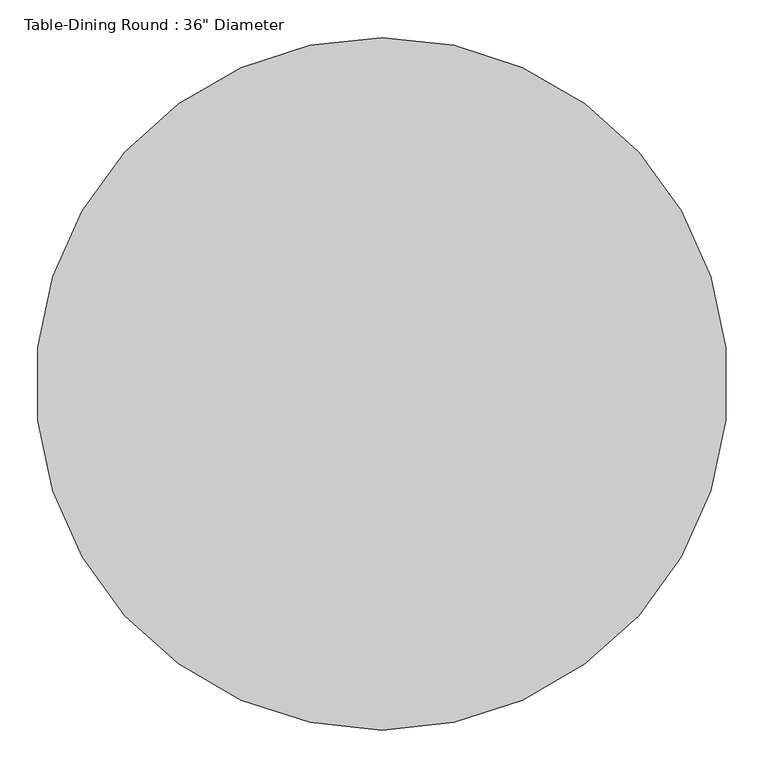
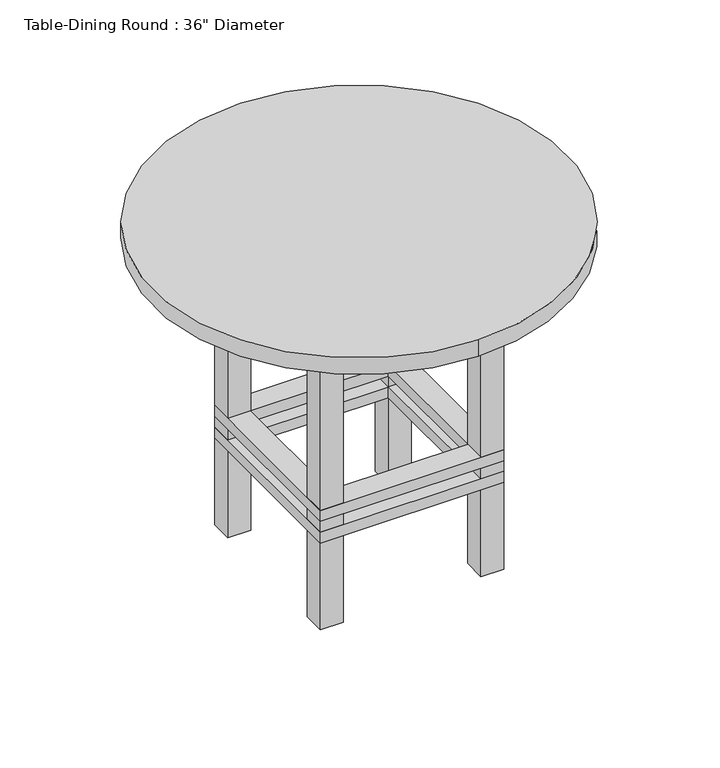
"""IFC4 building model written with IfcOpenShell, lengths in millimetres: furniture geometry."""

from ifc_helpers import new_model, si_unit, point, frame, frame_2d, origin, origin_with_axes, place, context, project, spatial, polyline, circle_curve, trimmed, segment, composite_curve, outline, extrude, source, transform, mapped, element, save


def furniture_ed8ac5fb(model_context):
    return source(origin(), model_context, "Body", "SweptSolid", [
        extrude(outline(polyline([(306.8819672, 18.3213115), (306.8819672, -388.0786885), (-99.5180328, -388.0786885), (-99.5180328, 18.3213115), (306.8819672, 18.3213115)]), holes=[polyline([(256.0819672, -32.4786885), (-48.7180328, -32.4786885), (-48.7180328, -337.2786885), (256.0819672, -337.2786885), (256.0819672, -32.4786885)])]), frame((0.0, 0.0, 203.2), z_axis=(0.0, 0.0, 1.0), x_axis=(1.0, 0.0, 0.0)), (0.0, 0.0, 1.0), 25.4),
        extrude(outline(polyline([(306.8819672, 18.3213115), (306.8819672, -388.0786885), (-99.5180328, -388.0786885), (-99.5180328, 18.3213115), (306.8819672, 18.3213115)]), holes=[polyline([(256.0819672, -32.4786885), (-48.7180328, -32.4786885), (-48.7180328, -337.2786885), (256.0819672, -337.2786885), (256.0819672, -32.4786885)])]), frame((0.0, 0.0, 254.0), z_axis=(0.0, 0.0, 1.0), x_axis=(1.0, 0.0, 0.0)), (0.0, 0.0, 1.0), 25.4),
        extrude(outline(polyline([(-48.7180328, 18.3213115), (-48.7180328, -32.4786885), (-99.5180328, -32.4786885), (-99.5180328, 18.3213115), (-48.7180328, 18.3213115)])), origin_with_axes(), (0.0, 0.0, 1.0), 647.7),
        extrude(outline(polyline([(256.0819672, 18.3213115), (306.8819672, 18.3213115), (306.8819672, -32.4786885), (256.0819672, -32.4786885), (256.0819672, 18.3213115)])), origin_with_axes(), (0.0, 0.0, 1.0), 647.7),
        extrude(outline(polyline([(256.0819672, -388.0786885), (256.0819672, -337.2786885), (306.8819672, -337.2786885), (306.8819672, -388.0786885), (256.0819672, -388.0786885)])), origin_with_axes(), (0.0, 0.0, 1.0), 647.7),
        extrude(outline(polyline([(-48.7180328, -388.0786885), (-99.5180328, -388.0786885), (-99.5180328, -337.2786885), (-48.7180328, -337.2786885), (-48.7180328, -388.0786885)])), origin_with_axes(), (0.0, 0.0, 1.0), 647.7),
        extrude(outline(polyline([(332.2819672, 43.7213115), (332.2819672, -413.4786885), (-124.9180328, -413.4786885), (-124.9180328, 43.7213115), (332.2819672, 43.7213115)]), holes=[polyline([(306.8819672, 18.3213115), (-99.5180328, 18.3213115), (-99.5180328, -388.0786885), (306.8819672, -388.0786885), (306.8819672, 18.3213115)])]), frame((0.0, 0.0, 647.7), z_axis=(0.0, 0.0, 1.0), x_axis=(1.0, 0.0, 0.0)), (0.0, 0.0, 1.0), 76.2),
        extrude(outline(composite_curve([segment(trimmed(circle_curve(frame_2d((103.6819672, -184.8786885)), 457.2), [point((103.6819672, -642.0786885))], [point((103.6819672, 272.3213115))], False, "CARTESIAN"), True, "CONTINUOUS"), segment(trimmed(circle_curve(frame_2d((103.6819672, -184.8786885)), 457.2), [point((103.6819672, 272.3213115))], [point((103.6819672, -642.0786885))], False, "CARTESIAN"), True, "CONTINUOUS")], self_intersect=False)), frame((0.0, 0.0, 723.9), z_axis=(0.0, 0.0, 1.0), x_axis=(1.0, 0.0, 0.0)), (0.0, 0.0, 1.0), 38.1),
    ])


if __name__ == "__main__":
    model = new_model("IFC4")
    model_context = context("Model", 3, world=origin())
    ifc_project = project(units=[si_unit("LENGTHUNIT", "METRE", prefix="MILLI")], contexts=[model_context])
    site = spatial("IfcSite", under=ifc_project)
    building = spatial("IfcBuilding", under=site)
    placement = place(None, origin())
    furniture_shape = furniture_ed8ac5fb(model_context)
    element("IfcFurniture", 1, ObjectType="Table-Dining Round : 36\" Diameter", at=placement, inside=building, context=model_context, shape_type="MappedRepresentation", body=[
        mapped(furniture_shape, transform((0.0, 0.0, 0.0), x_axis=(1.0, 0.0, 0.0), y_axis=(0.0, 1.0, 0.0), z_axis=(0.0, 0.0, 1.0))),
    ])
    save(model, "model.ifc")
